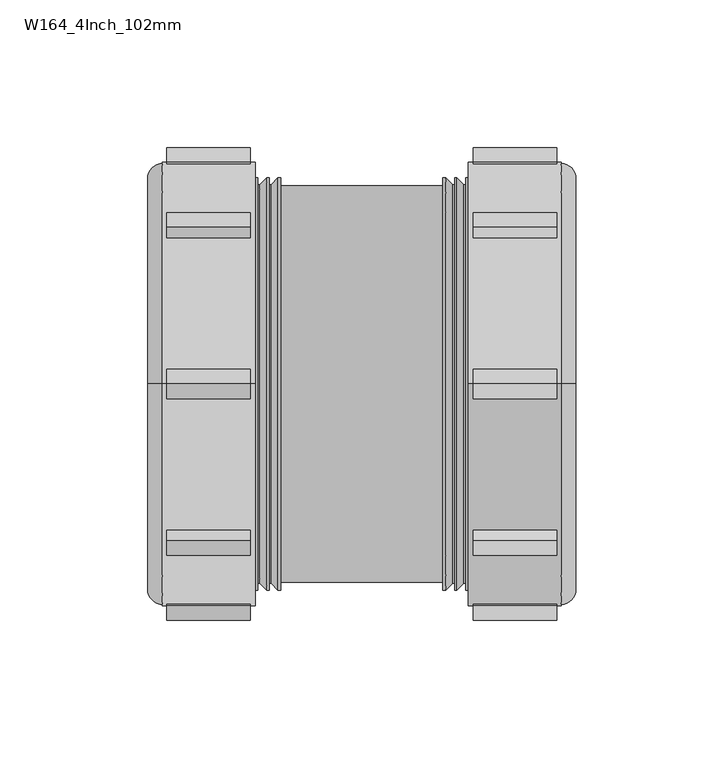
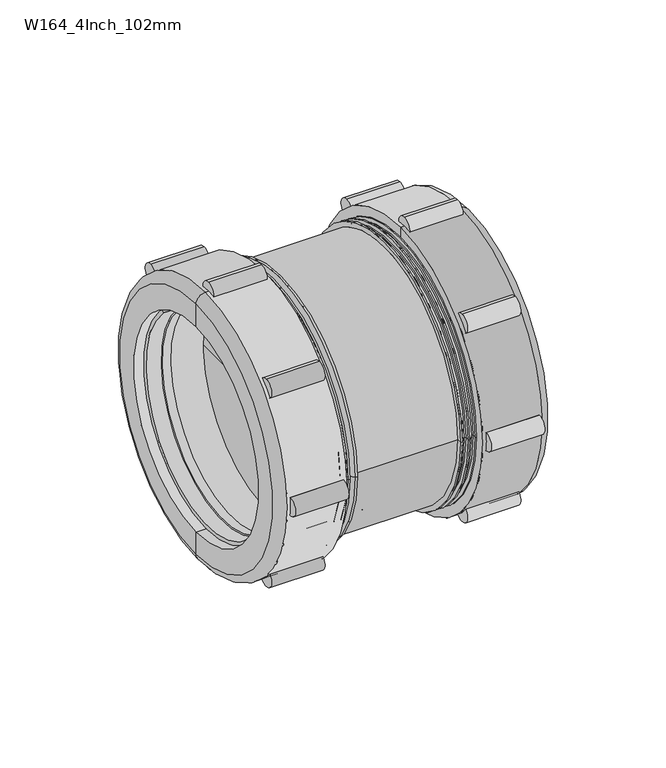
"""IFC4 building model written with IfcOpenShell, lengths in millimetres: pipe fitting geometry, Durapipe_PipeFitting_VulcatheneMechanical_LineCoupler_W16 : W164_4Inch_102mm."""

from ifc_helpers import new_model, si_unit, point, frame, frame_2d, origin, place, context, project, spatial, polyline, circle_curve, ellipse_curve, trimmed, segment, composite_curve, outline, extrude, source, transform, mapped, element, save
from ifc_brep_helpers import plane_surface, cylinder_surface, revolved_surface, advanced_brep


def w164_4inch_102mm_ff1ab78e(model_context):
    return source(origin(), model_context, "Body", "SolidModel", [
        advanced_brep(
        [(67.0, -45.3962554, 45.3962554), (67.0, 45.3962554, -45.3962554), (67.0, 39.3858477, -39.3858477), (67.0, -39.3858477, 39.3858477), (45.2, -42.0021428, 42.0021428), (45.2, 42.0021428, -42.0021428), (8.3, -42.0021428, 42.0021428), (8.3, 42.0021428, -42.0021428), (8.3, -40.3757972, 40.3757972), (8.3, 40.3757972, -40.3757972), (54.3, -40.3757972, 40.3757972), (54.3, 40.3757972, -40.3757972), (54.3, -38.890873, 38.890873), (54.3, 38.890873, -38.890873), (58.8, -39.3858477, 39.3858477), (58.8, 39.3858477, -39.3858477), (58.8, 38.890873, -38.890873), (58.8, -38.890873, 38.890873)],
        [
            (0, 1, circle_curve(frame((67.0, 0.0, 0.0), z_axis=(1.0, 0.0, 0.0), x_axis=(0.0, 0.7071067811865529, -0.7071067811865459)), 64.2)),
            (1, 2),
            (2, 3, circle_curve(frame((67.0, 0.0, 0.0), z_axis=(-1.0, 0.0, 0.0), x_axis=(0.0, 0.7071067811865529, -0.7071067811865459)), 55.7)),
            (3, 0),
            (1, 0, circle_curve(frame((67.0, 0.0, 0.0), z_axis=(1.0, 0.0, 0.0), x_axis=(0.0, 0.7071067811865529, -0.7071067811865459)), 64.2)),
            (3, 2, circle_curve(frame((67.0, 0.0, 0.0), z_axis=(-1.0, 0.0, 0.0), x_axis=(0.0, 0.7071067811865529, -0.7071067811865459)), 55.7)),
            (0, 4),
            (4, 5, circle_curve(frame((45.2, 0.0, 0.0), z_axis=(1.0, 0.0, 0.0), x_axis=(0.0, 0.7071067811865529, -0.7071067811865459)), 59.4)),
            (5, 1),
            (5, 4, circle_curve(frame((45.2, 0.0, 0.0), z_axis=(1.0, 0.0, 0.0), x_axis=(0.0, 0.7071067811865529, -0.7071067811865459)), 59.4)),
            (6, 7, circle_curve(frame((8.3, 0.0, 0.0), z_axis=(1.0, 0.0, 0.0), x_axis=(0.0, 0.7071067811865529, -0.7071067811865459)), 59.4)),
            (7, 5),
            (4, 6),
            (7, 6, circle_curve(frame((8.3, 0.0, 0.0), z_axis=(1.0, 0.0, 0.0), x_axis=(0.0, 0.7071067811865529, -0.7071067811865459)), 59.4)),
            (6, 8),
            (8, 9, circle_curve(frame((8.3, 0.0, 0.0), z_axis=(1.0, 0.0, 0.0), x_axis=(0.0, 0.7071067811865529, -0.7071067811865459)), 57.1)),
            (9, 7),
            (9, 8, circle_curve(frame((8.3, 0.0, 0.0), z_axis=(1.0, 0.0, 0.0), x_axis=(0.0, 0.7071067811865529, -0.7071067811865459)), 57.1)),
            (8, 10),
            (10, 11, circle_curve(frame((54.3, 0.0, 0.0), z_axis=(1.0, 0.0, 0.0), x_axis=(0.0, 0.7071067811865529, -0.7071067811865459)), 57.1)),
            (11, 9),
            (11, 10, circle_curve(frame((54.3, 0.0, 0.0), z_axis=(1.0, 0.0, 0.0), x_axis=(0.0, 0.7071067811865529, -0.7071067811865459)), 57.1)),
            (10, 12),
            (12, 13, circle_curve(frame((54.3, 0.0, 0.0), z_axis=(1.0, 0.0, 0.0), x_axis=(0.0, 0.7071067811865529, -0.7071067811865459)), 55.0)),
            (13, 11),
            (13, 12, circle_curve(frame((54.3, 0.0, 0.0), z_axis=(1.0, 0.0, 0.0), x_axis=(0.0, 0.7071067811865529, -0.7071067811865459)), 55.0)),
            (14, 15, circle_curve(frame((58.8, 0.0, 0.0), z_axis=(1.0, 0.0, 0.0), x_axis=(0.0, 0.7071067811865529, -0.7071067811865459)), 55.7)),
            (15, 16),
            (16, 17, circle_curve(frame((58.8, 0.0, 0.0), z_axis=(-1.0, 0.0, 0.0), x_axis=(0.0, 0.7071067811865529, -0.7071067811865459)), 55.0)),
            (17, 14),
            (15, 14, circle_curve(frame((58.8, 0.0, 0.0), z_axis=(1.0, 0.0, 0.0), x_axis=(0.0, 0.7071067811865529, -0.7071067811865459)), 55.7)),
            (17, 16, circle_curve(frame((58.8, 0.0, 0.0), z_axis=(-1.0, 0.0, 0.0), x_axis=(0.0, 0.7071067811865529, -0.7071067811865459)), 55.0)),
            (2, 15),
            (14, 3),
            (12, 17),
            (16, 13),
        ],
        [
            plane_surface(frame((67.0, 0.0, 0.0), z_axis=(1.0, 0.0, 0.0), x_axis=(0.0, 0.707106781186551, -0.707106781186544))),
            revolved_surface(polyline([(67.0, 45.3962554, -45.3962554), (45.2, 42.0021428, -42.0021428)]), (72.0, 0.0, 0.0), (-1.0000000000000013, 0.0, 0.0)),
            cylinder_surface(frame((6.2293443, 0.0, 0.0), z_axis=(-1.0000000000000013, 0.0, 0.0), x_axis=(0.0, 0.7071067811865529, -0.7071067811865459)), 59.4),
            plane_surface(frame((8.3, 0.0, 0.0), z_axis=(-1.0, 0.0, 0.0), x_axis=(0.0, 0.707106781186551, -0.707106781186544))),
            revolved_surface(polyline([(8.30000000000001, 40.37579720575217, -40.37579720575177), (54.300000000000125, 40.37579720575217, -40.37579720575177)]), (4.807009, 0.0, 0.0), (-1.0000000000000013, 0.0, 0.0)),
            plane_surface(frame((54.3, 0.0, 0.0), z_axis=(-1.0, 0.0, 0.0), x_axis=(0.0, 0.707106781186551, -0.707106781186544))),
            plane_surface(frame((58.8, 0.0, 0.0), z_axis=(1.0, 0.0, 0.0), x_axis=(0.0, 0.707106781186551, -0.707106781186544))),
            revolved_surface(polyline([(58.79999999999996, 39.385847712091, -39.38584771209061), (66.99999999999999, 39.385847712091, -39.38584771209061)]), (72.0, 0.0, 0.0), (-1.0000000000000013, 0.0, 0.0)),
            revolved_surface(polyline([(54.299999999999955, 38.89087296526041, -38.89087296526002), (58.79999999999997, 38.89087296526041, -38.89087296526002)]), (68.5661924, 0.0, 0.0), (-1.0000000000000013, 0.0, 0.0)),
        ],
        [
            (0, [[1, 2, 3, 4]]),
            (0, [[-2, 5, -4, 6]]),
            (1, [[-1, 7, 8, 9]]),
            (1, [[-5, -9, 10, -7]]),
            (2, [[11, 12, -8, 13]]),
            (2, [[-12, 14, -13, -10]]),
            (3, [[-11, 15, 16, 17]]),
            (3, [[-14, -17, 18, -15]]),
            (4, [[19, 20, 21, -16]]),
            (4, [[-19, -18, -21, 22]]),
            (5, [[-20, 23, 24, 25]]),
            (5, [[-22, -25, 26, -23]]),
            (6, [[27, 28, 29, 30]]),
            (6, [[31, -30, 32, -28]]),
            (7, [[-3, 33, -27, 34]]),
            (7, [[-6, -34, -31, -33]]),
            (8, [[35, -29, 36, -24]]),
            (8, [[-35, -26, -36, -32]]),
        ],
    ),
        advanced_brep(
        [(36.0, 0.0, 75.0), (36.0, 0.0, -75.0), (67.5, 0.0, -75.0), (67.5, 0.0, 75.0), (36.0, 0.0, 66.0), (36.0, 0.0, -66.0), (72.5, 0.0, 70.0), (72.5, 0.0, -70.0), (72.5, 0.0, -57.5), (72.5, 0.0, 57.5), (67.0, 0.0, 66.0), (67.0, 0.0, -66.0), (67.0, 0.0, 57.5), (67.0, 0.0, -57.5)],
        [
            (0, 1, circle_curve(frame((36.0, 0.0, 0.0), z_axis=(1.0, 0.0, 0.0), x_axis=(0.0, 0.0, -1.0000000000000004)), 75.0)),
            (1, 2),
            (2, 3, circle_curve(frame((67.5, 0.0, 0.0), z_axis=(-1.0, 0.0, 0.0), x_axis=(0.0, 0.0, -1.0000000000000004)), 75.0)),
            (3, 0),
            (1, 0, circle_curve(frame((36.0, 0.0, 0.0), z_axis=(1.0, 0.0, 0.0), x_axis=(0.0, 0.0, -1.0000000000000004)), 75.0)),
            (3, 2, circle_curve(frame((67.5, 0.0, 0.0), z_axis=(-1.0, 0.0, 0.0), x_axis=(0.0, 0.0, -1.0000000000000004)), 75.0)),
            (4, 5, circle_curve(frame((36.0, 0.0, 0.0), z_axis=(1.0, 0.0, 0.0), x_axis=(0.0, 0.0, -1.0000000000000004)), 66.0)),
            (5, 1),
            (0, 4),
            (5, 4, circle_curve(frame((36.0, 0.0, 0.0), z_axis=(1.0, 0.0, 0.0), x_axis=(0.0, 0.0, -1.0000000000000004)), 66.0)),
            (6, 7, circle_curve(frame((72.5, 0.0, 0.0), z_axis=(1.0, 0.0, 0.0), x_axis=(0.0, 0.0, -1.0000000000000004)), 70.0)),
            (7, 8),
            (8, 9, circle_curve(frame((72.5, 0.0, 0.0), z_axis=(-1.0, 0.0, 0.0), x_axis=(0.0, 0.0, -1.0000000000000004)), 57.5)),
            (9, 6),
            (7, 6, circle_curve(frame((72.5, 0.0, 0.0), z_axis=(1.0, 0.0, 0.0), x_axis=(0.0, 0.0, -1.0000000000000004)), 70.0)),
            (9, 8, circle_curve(frame((72.5, 0.0, 0.0), z_axis=(-1.0, 0.0, 0.0), x_axis=(0.0, 0.0, -1.0000000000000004)), 57.5)),
            (2, 7, circle_curve(frame((67.5, 0.0, -70.0), z_axis=(0.0, -1.0000000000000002, 0.0), x_axis=(1.0000000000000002, 0.0, 0.0)), 5.0)),
            (6, 3, circle_curve(frame((67.5, 0.0, 70.0), z_axis=(0.0, -1.0000000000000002, 0.0), x_axis=(1.0000000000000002, 0.0, 0.0)), 5.0)),
            (10, 11, circle_curve(frame((67.0, 0.0, 0.0), z_axis=(1.0, 0.0, 0.0), x_axis=(0.0, 0.0, -1.0000000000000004)), 66.0)),
            (11, 5),
            (4, 10),
            (11, 10, circle_curve(frame((67.0, 0.0, 0.0), z_axis=(1.0, 0.0, 0.0), x_axis=(0.0, 0.0, -1.0000000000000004)), 66.0)),
            (12, 13, circle_curve(frame((67.0, 0.0, 0.0), z_axis=(1.0, 0.0, 0.0), x_axis=(0.0, 0.0, -1.0000000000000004)), 57.5)),
            (13, 11),
            (10, 12),
            (13, 12, circle_curve(frame((67.0, 0.0, 0.0), z_axis=(1.0, 0.0, 0.0), x_axis=(0.0, 0.0, -1.0000000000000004)), 57.5)),
            (8, 13),
            (12, 9),
        ],
        [
            cylinder_surface(frame((1633.3018184, 0.0, 0.0), z_axis=(-1.0000000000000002, 0.0, 0.0), x_axis=(0.0, 0.0, -1.0000000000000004)), 75.0),
            plane_surface(frame((36.0, 0.0, 0.0), z_axis=(-1.0, 0.0, 0.0), x_axis=(0.0, 0.0, -1.0))),
            plane_surface(frame((72.5, 0.0, 0.0), z_axis=(1.0, 0.0, 0.0), x_axis=(0.0, 0.0, -1.0))),
            revolved_surface(trimmed(ellipse_curve(frame((67.5, 0.0, -70.0), z_axis=(0.0, 1.0000000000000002, 0.0), x_axis=(1.0000000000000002, 0.0, 0.0)), 5.0, 5.0), [point((72.5, 0.0, -70.0))], [point((67.5, 0.0, -75.0))], True, "CARTESIAN"), (1633.3018184, 0.0, 0.0), (-1.0000000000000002, 0.0, 0.0)),
            revolved_surface(polyline([(35.99999999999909, 0.0, -66.00000000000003), (66.99999999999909, 0.0, -66.00000000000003)]), (1633.3018184, 0.0, 0.0), (-1.0000000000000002, 0.0, 0.0)),
            plane_surface(frame((67.0, 0.0, 0.0), z_axis=(-1.0, 0.0, 0.0), x_axis=(0.0, 0.0, -1.0))),
            revolved_surface(polyline([(66.99999999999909, 0.0, -57.50000000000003), (72.49999999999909, 0.0, -57.50000000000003)]), (1633.3018184, 0.0, 0.0), (-1.0000000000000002, 0.0, 0.0)),
        ],
        [
            (0, [[1, 2, 3, 4]]),
            (0, [[5, -4, 6, -2]]),
            (1, [[7, 8, -1, 9]]),
            (1, [[10, -9, -5, -8]]),
            (2, [[11, 12, 13, 14]]),
            (2, [[15, -14, 16, -12]]),
            (3, [[-3, 17, -11, 18]]),
            (3, [[-6, -18, -15, -17]]),
            (4, [[19, 20, -7, 21]]),
            (4, [[22, -21, -10, -20]]),
            (5, [[23, 24, -19, 25]]),
            (5, [[26, -25, -22, -24]]),
            (6, [[-13, 27, -23, 28]]),
            (6, [[-16, -28, -26, -27]]),
        ],
    ),
        extrude(outline(composite_curve([segment(trimmed(circle_curve(frame_2d((75.0, 0.0)), 5.0), [point((75.0, 5.0))], [point((75.0, -5.0))], False, "CARTESIAN"), True, "CONTINUOUS"), segment(trimmed(circle_curve(frame_2d((75.0, 0.0)), 5.0), [point((75.0, -5.0))], [point((75.0, 5.0))], False, "CARTESIAN"), True, "CONTINUOUS")], self_intersect=False)), frame((37.8, 0.0, 0.0), z_axis=(1.0, 0.0, 0.0), x_axis=(0.0, 1.0, 0.0)), (0.0, 0.0, 1.0), 28.2),
        extrude(outline(composite_curve([segment(trimmed(circle_curve(frame_2d((53.0330086, -53.0330086)), 5.0), [point((53.0330086, -48.0330086))], [point((53.0330086, -58.0330086))], False, "CARTESIAN"), True, "CONTINUOUS"), segment(trimmed(circle_curve(frame_2d((53.0330086, -53.0330086)), 5.0), [point((53.0330086, -58.0330086))], [point((53.0330086, -48.0330086))], False, "CARTESIAN"), True, "CONTINUOUS")], self_intersect=False)), frame((37.8, 0.0, 0.0), z_axis=(1.0, 0.0, 0.0), x_axis=(0.0, 1.0, 0.0)), (0.0, 0.0, 1.0), 28.2),
        extrude(outline(composite_curve([segment(trimmed(circle_curve(frame_2d((0.0, -75.0)), 5.0), [point((0.0, -70.0))], [point((0.0, -80.0))], False, "CARTESIAN"), True, "CONTINUOUS"), segment(trimmed(circle_curve(frame_2d((0.0, -75.0)), 5.0), [point((0.0, -80.0))], [point((0.0, -70.0))], False, "CARTESIAN"), True, "CONTINUOUS")], self_intersect=False)), frame((37.8, 0.0, 0.0), z_axis=(1.0, 0.0, 0.0), x_axis=(0.0, 1.0, 0.0)), (0.0, 0.0, 1.0), 28.2),
        extrude(outline(composite_curve([segment(trimmed(circle_curve(frame_2d((-53.0330086, -53.0330086)), 5.0), [point((-53.0330086, -48.0330086))], [point((-53.0330086, -58.0330086))], False, "CARTESIAN"), True, "CONTINUOUS"), segment(trimmed(circle_curve(frame_2d((-53.0330086, -53.0330086)), 5.0), [point((-53.0330086, -58.0330086))], [point((-53.0330086, -48.0330086))], False, "CARTESIAN"), True, "CONTINUOUS")], self_intersect=False)), frame((37.8, 0.0, 0.0), z_axis=(1.0, 0.0, 0.0), x_axis=(0.0, 1.0, 0.0)), (0.0, 0.0, 1.0), 28.2),
        extrude(outline(composite_curve([segment(trimmed(circle_curve(frame_2d((-75.0, 0.0)), 5.0), [point((-75.0, 5.0))], [point((-75.0, -5.0))], False, "CARTESIAN"), True, "CONTINUOUS"), segment(trimmed(circle_curve(frame_2d((-75.0, 0.0)), 5.0), [point((-75.0, -5.0))], [point((-75.0, 5.0))], False, "CARTESIAN"), True, "CONTINUOUS")], self_intersect=False)), frame((37.8, 0.0, 0.0), z_axis=(1.0, 0.0, 0.0), x_axis=(0.0, 1.0, 0.0)), (0.0, 0.0, 1.0), 28.2),
        extrude(outline(composite_curve([segment(trimmed(circle_curve(frame_2d((-53.0330086, 53.0330086)), 5.0), [point((-53.0330086, 58.0330086))], [point((-53.0330086, 48.0330086))], False, "CARTESIAN"), True, "CONTINUOUS"), segment(trimmed(circle_curve(frame_2d((-53.0330086, 53.0330086)), 5.0), [point((-53.0330086, 48.0330086))], [point((-53.0330086, 58.0330086))], False, "CARTESIAN"), True, "CONTINUOUS")], self_intersect=False)), frame((37.8, 0.0, 0.0), z_axis=(1.0, 0.0, 0.0), x_axis=(0.0, 1.0, 0.0)), (0.0, 0.0, 1.0), 28.2),
        extrude(outline(composite_curve([segment(trimmed(circle_curve(frame_2d((0.0, 75.0)), 5.0), [point((0.0, 80.0))], [point((0.0, 70.0))], False, "CARTESIAN"), True, "CONTINUOUS"), segment(trimmed(circle_curve(frame_2d((0.0, 75.0)), 5.0), [point((0.0, 70.0))], [point((0.0, 80.0))], False, "CARTESIAN"), True, "CONTINUOUS")], self_intersect=False)), frame((37.8, 0.0, 0.0), z_axis=(1.0, 0.0, 0.0), x_axis=(0.0, 1.0, 0.0)), (0.0, 0.0, 1.0), 28.2),
        extrude(outline(composite_curve([segment(trimmed(circle_curve(frame_2d((53.0330086, 53.0330086)), 5.0), [point((53.0330086, 58.0330086))], [point((53.0330086, 48.0330086))], False, "CARTESIAN"), True, "CONTINUOUS"), segment(trimmed(circle_curve(frame_2d((53.0330086, 53.0330086)), 5.0), [point((53.0330086, 48.0330086))], [point((53.0330086, 58.0330086))], False, "CARTESIAN"), True, "CONTINUOUS")], self_intersect=False)), frame((37.8, 0.0, 0.0), z_axis=(1.0, 0.0, 0.0), x_axis=(0.0, 1.0, 0.0)), (0.0, 0.0, 1.0), 28.2),
        advanced_brep(
        [(-67.0, -45.3962554, -45.3962554), (-67.0, 45.3962554, 45.3962554), (-67.0, 39.3858477, 39.3858477), (-67.0, -39.3858477, -39.3858477), (-45.2, -42.0021428, -42.0021428), (-45.2, 42.0021428, 42.0021428), (-8.3, -42.0021428, -42.0021428), (-8.3, 42.0021428, 42.0021428), (-8.3, -40.3757972, -40.3757972), (-8.3, 40.3757972, 40.3757972), (-54.3, -40.3757972, -40.3757972), (-54.3, 40.3757972, 40.3757972), (-54.3, -38.890873, -38.890873), (-54.3, 38.890873, 38.890873), (-58.8, -39.3858477, -39.3858477), (-58.8, 39.3858477, 39.3858477), (-58.8, 38.890873, 38.890873), (-58.8, -38.890873, -38.890873)],
        [
            (0, 1, circle_curve(frame((-67.0, 0.0, 0.0), z_axis=(-1.0, 0.0, 0.0), x_axis=(0.0, 0.7071067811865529, 0.7071067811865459)), 64.2)),
            (1, 2),
            (2, 3, circle_curve(frame((-67.0, 0.0, 0.0), z_axis=(1.0, 0.0, 0.0), x_axis=(0.0, 0.7071067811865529, 0.7071067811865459)), 55.7)),
            (3, 0),
            (1, 0, circle_curve(frame((-67.0, 0.0, 0.0), z_axis=(-1.0, 0.0, 0.0), x_axis=(0.0, 0.7071067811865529, 0.7071067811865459)), 64.2)),
            (3, 2, circle_curve(frame((-67.0, 0.0, 0.0), z_axis=(1.0, 0.0, 0.0), x_axis=(0.0, 0.7071067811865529, 0.7071067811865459)), 55.7)),
            (0, 4),
            (4, 5, circle_curve(frame((-45.2, 0.0, 0.0), z_axis=(-1.0, 0.0, 0.0), x_axis=(0.0, 0.7071067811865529, 0.7071067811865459)), 59.4)),
            (5, 1),
            (5, 4, circle_curve(frame((-45.2, 0.0, 0.0), z_axis=(-1.0, 0.0, 0.0), x_axis=(0.0, 0.7071067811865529, 0.7071067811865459)), 59.4)),
            (6, 7, circle_curve(frame((-8.3, 0.0, 0.0), z_axis=(-1.0, 0.0, 0.0), x_axis=(0.0, 0.7071067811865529, 0.7071067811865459)), 59.4)),
            (7, 5),
            (4, 6),
            (7, 6, circle_curve(frame((-8.3, 0.0, 0.0), z_axis=(-1.0, 0.0, 0.0), x_axis=(0.0, 0.7071067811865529, 0.7071067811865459)), 59.4)),
            (6, 8),
            (8, 9, circle_curve(frame((-8.3, 0.0, 0.0), z_axis=(-1.0, 0.0, 0.0), x_axis=(0.0, 0.7071067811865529, 0.7071067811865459)), 57.1)),
            (9, 7),
            (9, 8, circle_curve(frame((-8.3, 0.0, 0.0), z_axis=(-1.0, 0.0, 0.0), x_axis=(0.0, 0.7071067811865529, 0.7071067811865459)), 57.1)),
            (8, 10),
            (10, 11, circle_curve(frame((-54.3, 0.0, 0.0), z_axis=(-1.0, 0.0, 0.0), x_axis=(0.0, 0.7071067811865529, 0.7071067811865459)), 57.1)),
            (11, 9),
            (11, 10, circle_curve(frame((-54.3, 0.0, 0.0), z_axis=(-1.0, 0.0, 0.0), x_axis=(0.0, 0.7071067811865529, 0.7071067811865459)), 57.1)),
            (10, 12),
            (12, 13, circle_curve(frame((-54.3, 0.0, 0.0), z_axis=(-1.0, 0.0, 0.0), x_axis=(0.0, 0.7071067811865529, 0.7071067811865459)), 55.0)),
            (13, 11),
            (13, 12, circle_curve(frame((-54.3, 0.0, 0.0), z_axis=(-1.0, 0.0, 0.0), x_axis=(0.0, 0.7071067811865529, 0.7071067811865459)), 55.0)),
            (14, 15, circle_curve(frame((-58.8, 0.0, 0.0), z_axis=(-1.0, 0.0, 0.0), x_axis=(0.0, 0.7071067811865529, 0.7071067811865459)), 55.7)),
            (15, 16),
            (16, 17, circle_curve(frame((-58.8, 0.0, 0.0), z_axis=(1.0, 0.0, 0.0), x_axis=(0.0, 0.7071067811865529, 0.7071067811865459)), 55.0)),
            (17, 14),
            (15, 14, circle_curve(frame((-58.8, 0.0, 0.0), z_axis=(-1.0, 0.0, 0.0), x_axis=(0.0, 0.7071067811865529, 0.7071067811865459)), 55.7)),
            (17, 16, circle_curve(frame((-58.8, 0.0, 0.0), z_axis=(1.0, 0.0, 0.0), x_axis=(0.0, 0.7071067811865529, 0.7071067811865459)), 55.0)),
            (2, 15),
            (14, 3),
            (12, 17),
            (16, 13),
        ],
        [
            plane_surface(frame((-67.0, 0.0, 0.0), z_axis=(-1.0, 0.0, 0.0), x_axis=(0.0, 0.707106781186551, 0.707106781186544))),
            revolved_surface(polyline([(-67.0, 45.3962554, 45.3962554), (-45.2, 42.0021428, 42.0021428)]), (-72.0, 0.0, 0.0), (1.0000000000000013, 0.0, 0.0)),
            cylinder_surface(frame((-6.2293443, 0.0, 0.0), z_axis=(1.0000000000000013, 0.0, 0.0), x_axis=(0.0, 0.7071067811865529, 0.7071067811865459)), 59.4),
            plane_surface(frame((-8.3, 0.0, 0.0), z_axis=(1.0, 0.0, 0.0), x_axis=(0.0, 0.707106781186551, 0.707106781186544))),
            revolved_surface(polyline([(-8.30000000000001, 40.37579720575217, 40.37579720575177), (-54.300000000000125, 40.37579720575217, 40.37579720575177)]), (-4.807009, 0.0, 0.0), (1.0000000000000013, 0.0, 0.0)),
            plane_surface(frame((-54.3, 0.0, 0.0), z_axis=(1.0, 0.0, 0.0), x_axis=(0.0, 0.707106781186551, 0.707106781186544))),
            plane_surface(frame((-58.8, 0.0, 0.0), z_axis=(-1.0, 0.0, 0.0), x_axis=(0.0, 0.707106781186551, 0.707106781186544))),
            revolved_surface(polyline([(-58.79999999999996, 39.385847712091, 39.38584771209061), (-66.99999999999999, 39.385847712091, 39.38584771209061)]), (-72.0, 0.0, 0.0), (1.0000000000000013, 0.0, 0.0)),
            revolved_surface(polyline([(-54.299999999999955, 38.89087296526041, 38.89087296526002), (-58.79999999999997, 38.89087296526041, 38.89087296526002)]), (-68.5661924, 0.0, 0.0), (1.0000000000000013, 0.0, 0.0)),
        ],
        [
            (0, [[1, 2, 3, 4]]),
            (0, [[-2, 5, -4, 6]]),
            (1, [[-1, 7, 8, 9]]),
            (1, [[-5, -9, 10, -7]]),
            (2, [[11, 12, -8, 13]]),
            (2, [[-12, 14, -13, -10]]),
            (3, [[-11, 15, 16, 17]]),
            (3, [[-14, -17, 18, -15]]),
            (4, [[19, 20, 21, -16]]),
            (4, [[-19, -18, -21, 22]]),
            (5, [[-20, 23, 24, 25]]),
            (5, [[-22, -25, 26, -23]]),
            (6, [[27, 28, 29, 30]]),
            (6, [[31, -30, 32, -28]]),
            (7, [[-3, 33, -27, 34]]),
            (7, [[-6, -34, -31, -33]]),
            (8, [[35, -29, 36, -24]]),
            (8, [[-35, -26, -36, -32]]),
        ],
    ),
        advanced_brep(
        [(-36.0, 0.0, -75.0), (-36.0, 0.0, 75.0), (-67.5, 0.0, 75.0), (-67.5, 0.0, -75.0), (-36.0, 0.0, -66.0), (-36.0, 0.0, 66.0), (-72.5, 0.0, -70.0), (-72.5, 0.0, 70.0), (-72.5, 0.0, 57.5), (-72.5, 0.0, -57.5), (-67.0, 0.0, -66.0), (-67.0, 0.0, 66.0), (-67.0, 0.0, -57.5), (-67.0, 0.0, 57.5)],
        [
            (0, 1, circle_curve(frame((-36.0, 0.0, 0.0), z_axis=(-1.0, 0.0, 0.0), x_axis=(0.0, 0.0, 1.0000000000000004)), 75.0)),
            (1, 2),
            (2, 3, circle_curve(frame((-67.5, 0.0, 0.0), z_axis=(1.0, 0.0, 0.0), x_axis=(0.0, 0.0, 1.0000000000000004)), 75.0)),
            (3, 0),
            (1, 0, circle_curve(frame((-36.0, 0.0, 0.0), z_axis=(-1.0, 0.0, 0.0), x_axis=(0.0, 0.0, 1.0000000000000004)), 75.0)),
            (3, 2, circle_curve(frame((-67.5, 0.0, 0.0), z_axis=(1.0, 0.0, 0.0), x_axis=(0.0, 0.0, 1.0000000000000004)), 75.0)),
            (4, 5, circle_curve(frame((-36.0, 0.0, 0.0), z_axis=(-1.0, 0.0, 0.0), x_axis=(0.0, 0.0, 1.0000000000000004)), 66.0)),
            (5, 1),
            (0, 4),
            (5, 4, circle_curve(frame((-36.0, 0.0, 0.0), z_axis=(-1.0, 0.0, 0.0), x_axis=(0.0, 0.0, 1.0000000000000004)), 66.0)),
            (6, 7, circle_curve(frame((-72.5, 0.0, 0.0), z_axis=(-1.0, 0.0, 0.0), x_axis=(0.0, 0.0, 1.0000000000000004)), 70.0)),
            (7, 8),
            (8, 9, circle_curve(frame((-72.5, 0.0, 0.0), z_axis=(1.0, 0.0, 0.0), x_axis=(0.0, 0.0, 1.0000000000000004)), 57.5)),
            (9, 6),
            (7, 6, circle_curve(frame((-72.5, 0.0, 0.0), z_axis=(-1.0, 0.0, 0.0), x_axis=(0.0, 0.0, 1.0000000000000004)), 70.0)),
            (9, 8, circle_curve(frame((-72.5, 0.0, 0.0), z_axis=(1.0, 0.0, 0.0), x_axis=(0.0, 0.0, 1.0000000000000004)), 57.5)),
            (2, 7, circle_curve(frame((-67.5, 0.0, 70.0), z_axis=(0.0, -1.0000000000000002, 0.0), x_axis=(-1.0000000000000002, 0.0, 0.0)), 5.0)),
            (6, 3, circle_curve(frame((-67.5, 0.0, -70.0), z_axis=(0.0, -1.0000000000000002, 0.0), x_axis=(-1.0000000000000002, 0.0, 0.0)), 5.0)),
            (10, 11, circle_curve(frame((-67.0, 0.0, 0.0), z_axis=(-1.0, 0.0, 0.0), x_axis=(0.0, 0.0, 1.0000000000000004)), 66.0)),
            (11, 5),
            (4, 10),
            (11, 10, circle_curve(frame((-67.0, 0.0, 0.0), z_axis=(-1.0, 0.0, 0.0), x_axis=(0.0, 0.0, 1.0000000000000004)), 66.0)),
            (12, 13, circle_curve(frame((-67.0, 0.0, 0.0), z_axis=(-1.0, 0.0, 0.0), x_axis=(0.0, 0.0, 1.0000000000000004)), 57.5)),
            (13, 11),
            (10, 12),
            (13, 12, circle_curve(frame((-67.0, 0.0, 0.0), z_axis=(-1.0, 0.0, 0.0), x_axis=(0.0, 0.0, 1.0000000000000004)), 57.5)),
            (8, 13),
            (12, 9),
        ],
        [
            cylinder_surface(frame((-1633.3018184, 0.0, 0.0), z_axis=(1.0000000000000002, 0.0, 0.0), x_axis=(0.0, 0.0, 1.0000000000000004)), 75.0),
            plane_surface(frame((-36.0, 0.0, 0.0), z_axis=(1.0, 0.0, 0.0), x_axis=(0.0, 0.0, 1.0))),
            plane_surface(frame((-72.5, 0.0, 0.0), z_axis=(-1.0, 0.0, 0.0), x_axis=(0.0, 0.0, 1.0))),
            revolved_surface(trimmed(ellipse_curve(frame((-67.5, 0.0, 70.0), z_axis=(0.0, 1.0000000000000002, 0.0), x_axis=(-1.0000000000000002, 0.0, 0.0)), 5.0, 5.0), [point((-72.5, 0.0, 70.0))], [point((-67.5, 0.0, 75.0))], True, "CARTESIAN"), (-1633.3018184, 0.0, 0.0), (1.0000000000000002, 0.0, 0.0)),
            revolved_surface(polyline([(-35.99999999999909, 0.0, 66.00000000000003), (-66.99999999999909, 0.0, 66.00000000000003)]), (-1633.3018184, 0.0, 0.0), (1.0000000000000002, 0.0, 0.0)),
            plane_surface(frame((-67.0, 0.0, 0.0), z_axis=(1.0, 0.0, 0.0), x_axis=(0.0, 0.0, 1.0))),
            revolved_surface(polyline([(-66.99999999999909, 0.0, 57.50000000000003), (-72.49999999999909, 0.0, 57.50000000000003)]), (-1633.3018184, 0.0, 0.0), (1.0000000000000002, 0.0, 0.0)),
        ],
        [
            (0, [[1, 2, 3, 4]]),
            (0, [[5, -4, 6, -2]]),
            (1, [[7, 8, -1, 9]]),
            (1, [[10, -9, -5, -8]]),
            (2, [[11, 12, 13, 14]]),
            (2, [[15, -14, 16, -12]]),
            (3, [[-3, 17, -11, 18]]),
            (3, [[-6, -18, -15, -17]]),
            (4, [[19, 20, -7, 21]]),
            (4, [[22, -21, -10, -20]]),
            (5, [[23, 24, -19, 25]]),
            (5, [[26, -25, -22, -24]]),
            (6, [[-13, 27, -23, 28]]),
            (6, [[-16, -28, -26, -27]]),
        ],
    ),
        extrude(outline(composite_curve([segment(trimmed(circle_curve(frame_2d((75.0, 0.0)), 5.0), [point((75.0, -5.0))], [point((75.0, 5.0))], False, "CARTESIAN"), True, "CONTINUOUS"), segment(trimmed(circle_curve(frame_2d((75.0, 0.0)), 5.0), [point((75.0, 5.0))], [point((75.0, -5.0))], False, "CARTESIAN"), True, "CONTINUOUS")], self_intersect=False)), frame((-66.0, 0.0, 0.0), z_axis=(1.0, 0.0, 0.0), x_axis=(0.0, 1.0, 0.0)), (0.0, 0.0, 1.0), 28.2),
        extrude(outline(composite_curve([segment(trimmed(circle_curve(frame_2d((53.0330086, 53.0330086)), 5.0), [point((53.0330086, 48.0330086))], [point((53.0330086, 58.0330086))], False, "CARTESIAN"), True, "CONTINUOUS"), segment(trimmed(circle_curve(frame_2d((53.0330086, 53.0330086)), 5.0), [point((53.0330086, 58.0330086))], [point((53.0330086, 48.0330086))], False, "CARTESIAN"), True, "CONTINUOUS")], self_intersect=False)), frame((-66.0, 0.0, 0.0), z_axis=(1.0, 0.0, 0.0), x_axis=(0.0, 1.0, 0.0)), (0.0, 0.0, 1.0), 28.2),
        extrude(outline(composite_curve([segment(trimmed(circle_curve(frame_2d((0.0, 75.0)), 5.0), [point((0.0, 70.0))], [point((0.0, 80.0))], False, "CARTESIAN"), True, "CONTINUOUS"), segment(trimmed(circle_curve(frame_2d((0.0, 75.0)), 5.0), [point((0.0, 80.0))], [point((0.0, 70.0))], False, "CARTESIAN"), True, "CONTINUOUS")], self_intersect=False)), frame((-66.0, 0.0, 0.0), z_axis=(1.0, 0.0, 0.0), x_axis=(0.0, 1.0, 0.0)), (0.0, 0.0, 1.0), 28.2),
        extrude(outline(composite_curve([segment(trimmed(circle_curve(frame_2d((-53.0330086, 53.0330086)), 5.0), [point((-53.0330086, 48.0330086))], [point((-53.0330086, 58.0330086))], False, "CARTESIAN"), True, "CONTINUOUS"), segment(trimmed(circle_curve(frame_2d((-53.0330086, 53.0330086)), 5.0), [point((-53.0330086, 58.0330086))], [point((-53.0330086, 48.0330086))], False, "CARTESIAN"), True, "CONTINUOUS")], self_intersect=False)), frame((-66.0, 0.0, 0.0), z_axis=(1.0, 0.0, 0.0), x_axis=(0.0, 1.0, 0.0)), (0.0, 0.0, 1.0), 28.2),
        extrude(outline(composite_curve([segment(trimmed(circle_curve(frame_2d((-75.0, 0.0)), 5.0), [point((-75.0, -5.0))], [point((-75.0, 5.0))], False, "CARTESIAN"), True, "CONTINUOUS"), segment(trimmed(circle_curve(frame_2d((-75.0, 0.0)), 5.0), [point((-75.0, 5.0))], [point((-75.0, -5.0))], False, "CARTESIAN"), True, "CONTINUOUS")], self_intersect=False)), frame((-66.0, 0.0, 0.0), z_axis=(1.0, 0.0, 0.0), x_axis=(0.0, 1.0, 0.0)), (0.0, 0.0, 1.0), 28.2),
        extrude(outline(composite_curve([segment(trimmed(circle_curve(frame_2d((-53.0330086, -53.0330086)), 5.0), [point((-53.0330086, -58.0330086))], [point((-53.0330086, -48.0330086))], False, "CARTESIAN"), True, "CONTINUOUS"), segment(trimmed(circle_curve(frame_2d((-53.0330086, -53.0330086)), 5.0), [point((-53.0330086, -48.0330086))], [point((-53.0330086, -58.0330086))], False, "CARTESIAN"), True, "CONTINUOUS")], self_intersect=False)), frame((-66.0, 0.0, 0.0), z_axis=(1.0, 0.0, 0.0), x_axis=(0.0, 1.0, 0.0)), (0.0, 0.0, 1.0), 28.2),
        extrude(outline(composite_curve([segment(trimmed(circle_curve(frame_2d((0.0, -75.0)), 5.0), [point((0.0, -80.0))], [point((0.0, -70.0))], False, "CARTESIAN"), True, "CONTINUOUS"), segment(trimmed(circle_curve(frame_2d((0.0, -75.0)), 5.0), [point((0.0, -70.0))], [point((0.0, -80.0))], False, "CARTESIAN"), True, "CONTINUOUS")], self_intersect=False)), frame((-66.0, 0.0, 0.0), z_axis=(1.0, 0.0, 0.0), x_axis=(0.0, 1.0, 0.0)), (0.0, 0.0, 1.0), 28.2),
        extrude(outline(composite_curve([segment(trimmed(circle_curve(frame_2d((53.0330086, -53.0330086)), 5.0), [point((53.0330086, -58.0330086))], [point((53.0330086, -48.0330086))], False, "CARTESIAN"), True, "CONTINUOUS"), segment(trimmed(circle_curve(frame_2d((53.0330086, -53.0330086)), 5.0), [point((53.0330086, -48.0330086))], [point((53.0330086, -58.0330086))], False, "CARTESIAN"), True, "CONTINUOUS")], self_intersect=False)), frame((-66.0, 0.0, 0.0), z_axis=(1.0, 0.0, 0.0), x_axis=(0.0, 1.0, 0.0)), (0.0, 0.0, 1.0), 28.2),
        advanced_brep(
        [(-36.0, -69.8538894, 0.0), (-36.0, 69.8538894, 0.0), (-35.2, 69.8538894, 0.0), (-35.2, -69.8538894, 0.0), (-36.0, 0.0, 0.0), (36.0, -69.8538894, 0.0), (36.0, 69.8538894, 0.0), (36.0, 0.0, 0.0), (35.2, -69.8538894, 0.0), (35.2, 69.8538894, 0.0), (35.2, -67.8195748, 0.0), (35.2, 67.8195748, 0.0), (34.5171573, -67.5367321, 0.0), (34.5171573, 67.5367321, 0.0), (32.2, -69.8538894, 0.0), (32.2, 69.8538894, 0.0), (31.4, -69.8538894, 0.0), (31.4, 69.8538894, 0.0), (31.4, -67.8195748, 0.0), (31.4, 67.8195748, 0.0), (30.7171573, -67.5367321, 0.0), (30.7171573, 67.5367321, 0.0), (28.4, -69.8538894, 0.0), (28.4, 69.8538894, 0.0), (27.403125, -69.8538894, 0.0), (27.403125, 69.8538894, 0.0), (27.403125, -67.0675797, 0.0), (27.403125, 67.0675797, 0.0), (-27.403125, -67.0675797, 0.0), (-27.403125, 67.0675797, 0.0), (-27.403125, -69.8538894, 0.0), (-27.403125, 69.8538894, 0.0), (-28.4, -69.8538894, 0.0), (-28.4, 69.8538894, 0.0), (-30.7171573, -67.5367321, 0.0), (-30.7171573, 67.5367321, 0.0), (-31.4, -67.8195748, 0.0), (-31.4, 67.8195748, 0.0), (-31.4, -69.8538894, 0.0), (-31.4, 69.8538894, 0.0), (-32.2, -69.8538894, 0.0), (-32.2, 69.8538894, 0.0), (-34.5171573, -67.5367321, 0.0), (-34.5171573, 67.5367321, 0.0), (-35.2, -67.8195748, 0.0), (-35.2, 67.8195748, 0.0)],
        [
            (0, 1, circle_curve(frame((-36.0, 0.0, 0.0), z_axis=(1.0, 0.0, 0.0), x_axis=(0.0, 1.0, 0.0)), 69.8538894)),
            (1, 2),
            (2, 3, circle_curve(frame((-35.2, 0.0, 0.0), z_axis=(-1.0, 0.0, 0.0), x_axis=(0.0, 1.0, 0.0)), 69.8538894)),
            (3, 0),
            (1, 0, circle_curve(frame((-36.0, 0.0, 0.0), z_axis=(1.0, 0.0, 0.0), x_axis=(0.0, 1.0, 0.0)), 69.8538894)),
            (3, 2, circle_curve(frame((-35.2, 0.0, 0.0), z_axis=(-1.0, 0.0, 0.0), x_axis=(0.0, 1.0, 0.0)), 69.8538894)),
            (4, 1),
            (0, 4),
            (5, 6, circle_curve(frame((36.0, 0.0, 0.0), z_axis=(1.0, 0.0, 0.0), x_axis=(0.0, 1.0, 0.0)), 69.8538894)),
            (6, 7),
            (7, 5),
            (6, 5, circle_curve(frame((36.0, 0.0, 0.0), z_axis=(1.0, 0.0, 0.0), x_axis=(0.0, 1.0, 0.0)), 69.8538894)),
            (8, 9, circle_curve(frame((35.2, 0.0, 0.0), z_axis=(1.0, 0.0, 0.0), x_axis=(0.0, 1.0, 0.0)), 69.8538894)),
            (9, 6),
            (5, 8),
            (9, 8, circle_curve(frame((35.2, 0.0, 0.0), z_axis=(1.0, 0.0, 0.0), x_axis=(0.0, 1.0, 0.0)), 69.8538894)),
            (10, 11, circle_curve(frame((35.2, 0.0, 0.0), z_axis=(1.0, 0.0, 0.0), x_axis=(0.0, 1.0, 0.0)), 67.8195748)),
            (11, 9),
            (8, 10),
            (11, 10, circle_curve(frame((35.2, 0.0, 0.0), z_axis=(1.0, 0.0, 0.0), x_axis=(0.0, 1.0, 0.0)), 67.8195748)),
            (12, 13, circle_curve(frame((34.5171573, 0.0, 0.0), z_axis=(1.0, 0.0, 0.0), x_axis=(0.0, 1.0, 0.0)), 67.5367321)),
            (13, 11, circle_curve(frame((34.8, 67.8195748, 0.0), z_axis=(0.0, 0.0, 1.0), x_axis=(1.0, 0.0, 0.0)), 0.4)),
            (10, 12, circle_curve(frame((34.8, -67.8195748, 0.0), z_axis=(0.0, 0.0, 1.0), x_axis=(1.0, 0.0, 0.0)), 0.4)),
            (13, 12, circle_curve(frame((34.5171573, 0.0, 0.0), z_axis=(1.0, 0.0, 0.0), x_axis=(0.0, 1.0, 0.0)), 67.5367321)),
            (14, 15, circle_curve(frame((32.2, 0.0, 0.0), z_axis=(1.0, 0.0, 0.0), x_axis=(0.0, 1.0, 0.0)), 69.8538894)),
            (15, 13),
            (12, 14),
            (15, 14, circle_curve(frame((32.2, 0.0, 0.0), z_axis=(1.0, 0.0, 0.0), x_axis=(0.0, 1.0, 0.0)), 69.8538894)),
            (16, 17, circle_curve(frame((31.4, 0.0, 0.0), z_axis=(1.0, 0.0, 0.0), x_axis=(0.0, 1.0, 0.0)), 69.8538894)),
            (17, 15),
            (14, 16),
            (17, 16, circle_curve(frame((31.4, 0.0, 0.0), z_axis=(1.0, 0.0, 0.0), x_axis=(0.0, 1.0, 0.0)), 69.8538894)),
            (18, 19, circle_curve(frame((31.4, 0.0, 0.0), z_axis=(1.0, 0.0, 0.0), x_axis=(0.0, 1.0, 0.0)), 67.8195748)),
            (19, 17),
            (16, 18),
            (19, 18, circle_curve(frame((31.4, 0.0, 0.0), z_axis=(1.0, 0.0, 0.0), x_axis=(0.0, 1.0, 0.0)), 67.8195748)),
            (20, 21, circle_curve(frame((30.7171573, 0.0, 0.0), z_axis=(1.0, 0.0, 0.0), x_axis=(0.0, 1.0, 0.0)), 67.5367321)),
            (21, 19, circle_curve(frame((31.0, 67.8195748, 0.0), z_axis=(0.0, 0.0, 1.0), x_axis=(1.0, 0.0, 0.0)), 0.4)),
            (18, 20, circle_curve(frame((31.0, -67.8195748, 0.0), z_axis=(0.0, 0.0, 1.0), x_axis=(1.0, 0.0, 0.0)), 0.4)),
            (21, 20, circle_curve(frame((30.7171573, 0.0, 0.0), z_axis=(1.0, 0.0, 0.0), x_axis=(0.0, 1.0, 0.0)), 67.5367321)),
            (22, 23, circle_curve(frame((28.4, 0.0, 0.0), z_axis=(1.0, 0.0, 0.0), x_axis=(0.0, 1.0, 0.0)), 69.8538894)),
            (23, 21),
            (20, 22),
            (23, 22, circle_curve(frame((28.4, 0.0, 0.0), z_axis=(1.0, 0.0, 0.0), x_axis=(0.0, 1.0, 0.0)), 69.8538894)),
            (24, 25, circle_curve(frame((27.403125, 0.0, 0.0), z_axis=(1.0, 0.0, 0.0), x_axis=(0.0, 1.0, 0.0)), 69.8538894)),
            (25, 23),
            (22, 24),
            (25, 24, circle_curve(frame((27.403125, 0.0, 0.0), z_axis=(1.0, 0.0, 0.0), x_axis=(0.0, 1.0, 0.0)), 69.8538894)),
            (26, 27, circle_curve(frame((27.403125, 0.0, 0.0), z_axis=(1.0, 0.0, 0.0), x_axis=(0.0, 1.0, 0.0)), 67.0675797)),
            (27, 25),
            (24, 26),
            (27, 26, circle_curve(frame((27.403125, 0.0, 0.0), z_axis=(1.0, 0.0, 0.0), x_axis=(0.0, 1.0, 0.0)), 67.0675797)),
            (28, 29, circle_curve(frame((-27.403125, 0.0, 0.0), z_axis=(1.0, 0.0, 0.0), x_axis=(0.0, 1.0, 0.0)), 67.0675797)),
            (29, 27),
            (26, 28),
            (29, 28, circle_curve(frame((-27.403125, 0.0, 0.0), z_axis=(1.0, 0.0, 0.0), x_axis=(0.0, 1.0, 0.0)), 67.0675797)),
            (30, 31, circle_curve(frame((-27.403125, 0.0, 0.0), z_axis=(1.0, 0.0, 0.0), x_axis=(0.0, 1.0, 0.0)), 69.8538894)),
            (31, 29),
            (28, 30),
            (31, 30, circle_curve(frame((-27.403125, 0.0, 0.0), z_axis=(1.0, 0.0, 0.0), x_axis=(0.0, 1.0, 0.0)), 69.8538894)),
            (32, 33, circle_curve(frame((-28.4, 0.0, 0.0), z_axis=(1.0, 0.0, 0.0), x_axis=(0.0, 1.0, 0.0)), 69.8538894)),
            (33, 31),
            (30, 32),
            (33, 32, circle_curve(frame((-28.4, 0.0, 0.0), z_axis=(1.0, 0.0, 0.0), x_axis=(0.0, 1.0, 0.0)), 69.8538894)),
            (34, 35, circle_curve(frame((-30.7171573, 0.0, 0.0), z_axis=(1.0, 0.0, 0.0), x_axis=(0.0, 1.0, 0.0)), 67.5367321)),
            (35, 33),
            (32, 34),
            (35, 34, circle_curve(frame((-30.7171573, 0.0, 0.0), z_axis=(1.0, 0.0, 0.0), x_axis=(0.0, 1.0, 0.0)), 67.5367321)),
            (36, 37, circle_curve(frame((-31.4, 0.0, 0.0), z_axis=(1.0, 0.0, 0.0), x_axis=(0.0, 1.0, 0.0)), 67.8195748)),
            (37, 35, circle_curve(frame((-31.0, 67.8195748, 0.0), z_axis=(0.0, 0.0, 1.0), x_axis=(1.0, 0.0, 0.0)), 0.4)),
            (34, 36, circle_curve(frame((-31.0, -67.8195748, 0.0), z_axis=(0.0, 0.0, 1.0), x_axis=(1.0, 0.0, 0.0)), 0.4)),
            (37, 36, circle_curve(frame((-31.4, 0.0, 0.0), z_axis=(1.0, 0.0, 0.0), x_axis=(0.0, 1.0, 0.0)), 67.8195748)),
            (38, 39, circle_curve(frame((-31.4, 0.0, 0.0), z_axis=(1.0, 0.0, 0.0), x_axis=(0.0, 1.0, 0.0)), 69.8538894)),
            (39, 37),
            (36, 38),
            (39, 38, circle_curve(frame((-31.4, 0.0, 0.0), z_axis=(1.0, 0.0, 0.0), x_axis=(0.0, 1.0, 0.0)), 69.8538894)),
            (40, 41, circle_curve(frame((-32.2, 0.0, 0.0), z_axis=(1.0, 0.0, 0.0), x_axis=(0.0, 1.0, 0.0)), 69.8538894)),
            (41, 39),
            (38, 40),
            (41, 40, circle_curve(frame((-32.2, 0.0, 0.0), z_axis=(1.0, 0.0, 0.0), x_axis=(0.0, 1.0, 0.0)), 69.8538894)),
            (42, 43, circle_curve(frame((-34.5171573, 0.0, 0.0), z_axis=(1.0, 0.0, 0.0), x_axis=(0.0, 1.0, 0.0)), 67.5367321)),
            (43, 41),
            (40, 42),
            (43, 42, circle_curve(frame((-34.5171573, 0.0, 0.0), z_axis=(1.0, 0.0, 0.0), x_axis=(0.0, 1.0, 0.0)), 67.5367321)),
            (44, 45, circle_curve(frame((-35.2, 0.0, 0.0), z_axis=(1.0, 0.0, 0.0), x_axis=(0.0, 1.0, 0.0)), 67.8195748)),
            (45, 43, circle_curve(frame((-34.8, 67.8195748, 0.0), z_axis=(0.0, 0.0, 1.0), x_axis=(1.0, 0.0, 0.0)), 0.4)),
            (42, 44, circle_curve(frame((-34.8, -67.8195748, 0.0), z_axis=(0.0, 0.0, 1.0), x_axis=(1.0, 0.0, 0.0)), 0.4)),
            (45, 44, circle_curve(frame((-35.2, 0.0, 0.0), z_axis=(1.0, 0.0, 0.0), x_axis=(0.0, 1.0, 0.0)), 67.8195748)),
            (2, 45),
            (44, 3),
        ],
        [
            cylinder_surface(frame((1571.2518184, 0.0, 0.0), z_axis=(-1.0, 0.0, 0.0), x_axis=(0.0, 1.0, 0.0)), 69.8538894),
            plane_surface(frame((-36.0, 0.0, 0.0), z_axis=(-1.0, 0.0, 0.0), x_axis=(0.0, 1.0, 0.0))),
            plane_surface(frame((36.0, 0.0, 0.0), z_axis=(1.0, 0.0, 0.0), x_axis=(0.0, 1.0, 0.0))),
            plane_surface(frame((35.2, 0.0, 0.0), z_axis=(-1.0, 0.0, 0.0), x_axis=(0.0, 1.0, 0.0))),
            revolved_surface(trimmed(ellipse_curve(frame((34.8, 67.8195748, 0.0), z_axis=(0.0, 0.0, -1.0), x_axis=(1.0, 0.0, 0.0)), 0.4, 0.4), [point((35.2, 67.8195748, 0.0))], [point((34.5171573, 67.5367321, 0.0))], True, "CARTESIAN"), (1571.2518184, 0.0, 0.0), (-1.0, 0.0, 0.0)),
            revolved_surface(polyline([(34.5171573, 67.5367321, 0.0), (32.2, 69.8538894, 0.0)]), (1571.2518184, 0.0, 0.0), (-1.0, 0.0, 0.0)),
            plane_surface(frame((31.4, 0.0, 0.0), z_axis=(-1.0, 0.0, 0.0), x_axis=(0.0, 1.0, 0.0))),
            revolved_surface(trimmed(ellipse_curve(frame((31.0, 67.8195748, 0.0), z_axis=(0.0, 0.0, -1.0), x_axis=(1.0, 0.0, 0.0)), 0.4, 0.4), [point((31.4, 67.8195748, 0.0))], [point((30.7171573, 67.5367321, 0.0))], True, "CARTESIAN"), (1571.2518184, 0.0, 0.0), (-1.0, 0.0, 0.0)),
            revolved_surface(polyline([(30.7171573, 67.5367321, 0.0), (28.4, 69.8538894, 0.0)]), (1571.2518184, 0.0, 0.0), (-1.0, 0.0, 0.0)),
            plane_surface(frame((27.403125, 0.0, 0.0), z_axis=(-1.0, 0.0, 0.0), x_axis=(0.0, 1.0, 0.0))),
            cylinder_surface(frame((1571.2518184, 0.0, 0.0), z_axis=(-1.0, 0.0, 0.0), x_axis=(0.0, 1.0, 0.0)), 67.0675797),
            plane_surface(frame((-27.403125, 0.0, 0.0), z_axis=(1.0, 0.0, 0.0), x_axis=(0.0, 1.0, 0.0))),
            revolved_surface(polyline([(-28.4, 69.8538894, 0.0), (-30.7171573, 67.5367321, 0.0)]), (1571.2518184, 0.0, 0.0), (-1.0, 0.0, 0.0)),
            revolved_surface(trimmed(ellipse_curve(frame((-31.0, 67.8195748, 0.0), z_axis=(0.0, 0.0, -1.0), x_axis=(1.0, 0.0, 0.0)), 0.4, 0.4), [point((-30.7171573, 67.5367321, 0.0))], [point((-31.4, 67.8195748, 0.0))], True, "CARTESIAN"), (1571.2518184, 0.0, 0.0), (-1.0, 0.0, 0.0)),
            plane_surface(frame((-31.4, 0.0, 0.0), z_axis=(1.0, 0.0, 0.0), x_axis=(0.0, 1.0, 0.0))),
            revolved_surface(polyline([(-32.2, 69.8538894, 0.0), (-34.5171573, 67.5367321, 0.0)]), (1571.2518184, 0.0, 0.0), (-1.0, 0.0, 0.0)),
            revolved_surface(trimmed(ellipse_curve(frame((-34.8, 67.8195748, 0.0), z_axis=(0.0, 0.0, -1.0), x_axis=(1.0, 0.0, 0.0)), 0.4, 0.4), [point((-34.5171573, 67.5367321, 0.0))], [point((-35.2, 67.8195748, 0.0))], True, "CARTESIAN"), (1571.2518184, 0.0, 0.0), (-1.0, 0.0, 0.0)),
            plane_surface(frame((-35.2, 0.0, 0.0), z_axis=(1.0, 0.0, 0.0), x_axis=(0.0, 1.0, 0.0))),
        ],
        [
            (0, [[1, 2, 3, 4]]),
            (0, [[5, -4, 6, -2]]),
            (1, [[7, -1, 8]]),
            (1, [[-8, -5, -7]]),
            (2, [[9, 10, 11]]),
            (2, [[12, -11, -10]]),
            (0, [[13, 14, -9, 15]]),
            (0, [[16, -15, -12, -14]]),
            (3, [[17, 18, -13, 19]]),
            (3, [[20, -19, -16, -18]]),
            (4, [[21, 22, -17, 23]]),
            (4, [[24, -23, -20, -22]]),
            (5, [[25, 26, -21, 27]]),
            (5, [[28, -27, -24, -26]]),
            (0, [[29, 30, -25, 31]]),
            (0, [[32, -31, -28, -30]]),
            (6, [[33, 34, -29, 35]]),
            (6, [[36, -35, -32, -34]]),
            (7, [[37, 38, -33, 39]]),
            (7, [[40, -39, -36, -38]]),
            (8, [[41, 42, -37, 43]]),
            (8, [[44, -43, -40, -42]]),
            (0, [[45, 46, -41, 47]]),
            (0, [[48, -47, -44, -46]]),
            (9, [[49, 50, -45, 51]]),
            (9, [[52, -51, -48, -50]]),
            (10, [[53, 54, -49, 55]]),
            (10, [[56, -55, -52, -54]]),
            (11, [[57, 58, -53, 59]]),
            (11, [[60, -59, -56, -58]]),
            (0, [[61, 62, -57, 63]]),
            (0, [[64, -63, -60, -62]]),
            (12, [[65, 66, -61, 67]]),
            (12, [[68, -67, -64, -66]]),
            (13, [[69, 70, -65, 71]]),
            (13, [[72, -71, -68, -70]]),
            (14, [[73, 74, -69, 75]]),
            (14, [[76, -75, -72, -74]]),
            (0, [[77, 78, -73, 79]]),
            (0, [[80, -79, -76, -78]]),
            (15, [[81, 82, -77, 83]]),
            (15, [[84, -83, -80, -82]]),
            (16, [[85, 86, -81, 87]]),
            (16, [[88, -87, -84, -86]]),
            (17, [[-3, 89, -85, 90]]),
            (17, [[-6, -90, -88, -89]]),
        ],
    ),
    ])


if __name__ == "__main__":
    model = new_model("IFC4")
    model_context = context("Model", 3, world=origin())
    ifc_project = project(units=[si_unit("LENGTHUNIT", "METRE", prefix="MILLI")], contexts=[model_context])
    site = spatial("IfcSite", under=ifc_project)
    building = spatial("IfcBuilding", under=site)
    placement = place(None, origin())
    w164_4inch_102mm_shape = w164_4inch_102mm_ff1ab78e(model_context)
    element("IfcPipeFitting", 1, ObjectType="Durapipe_PipeFitting_VulcatheneMechanical_LineCoupler_W16 : W164_4Inch_102mm", at=placement, inside=building, context=model_context, shape_type="MappedRepresentation", body=[
        mapped(w164_4inch_102mm_shape, transform((0.0, 0.0, 0.0), x_axis=(1.0, 0.0, 0.0), y_axis=(0.0, 1.0, 0.0), z_axis=(0.0, 0.0, 1.0))),
    ])
    save(model, "model.ifc")
